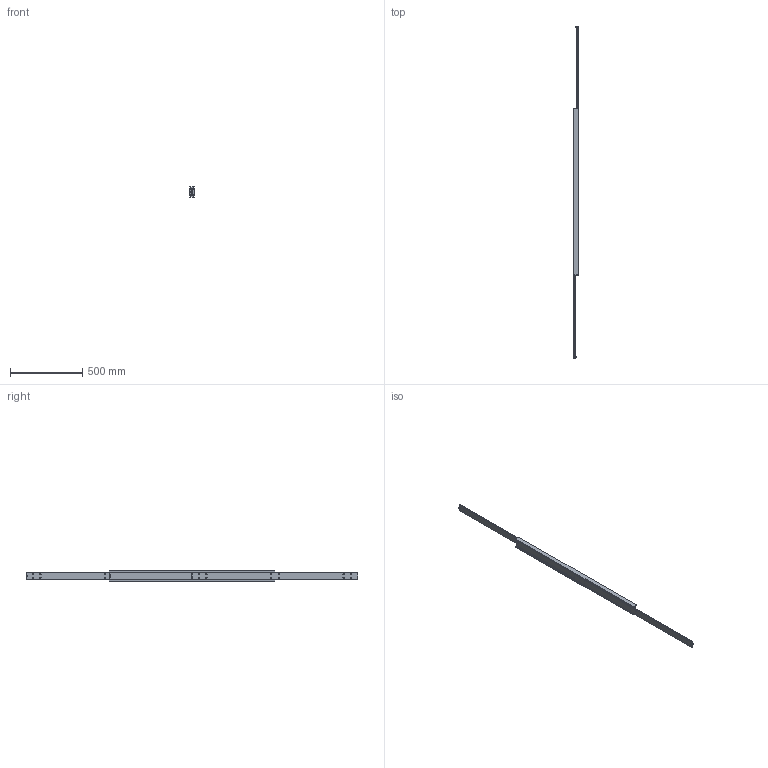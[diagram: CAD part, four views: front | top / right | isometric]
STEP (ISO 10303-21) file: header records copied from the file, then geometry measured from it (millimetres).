
FILE_DESCRIPTION(/* description */ (''),/* implementation_level */ '2;1');
FILE_NAME(/* name */ 'F:\MX-DTP70.115\MX-DTP70.115_ausgefahren.stp',/* time_stamp */ '2020-12-29T11:19:00+01:00',/* author */ ('Miluxor'),/* organization */ (''),/* preprocessor_version */ 'ST-DEVELOPER v16.13',/* originating_system */ 'AutoCAD Mechanical',/* authorisation */ '');
FILE_SCHEMA (('AUTOMOTIVE_DESIGN { 1 0 10303 214 3 1 1 }'));
Length unit declared in the file: millimetre
Products named in the file (1): Product
Bounding box: 32 x 2300 x 70 mm (x, y, z)
Volume: 1965806.4 mm3; surface area: 728899.6 mm2
Topology: 81 solids, 83 shells, 210 faces, 732 edges, 536 vertices
Faces by surface type: plane 82, sphere 76, cylinder 38, bspline 8, torus 6
Full cylindrical faces by diameter (mm): 8 x24, 13 x2
Entity records: 14869 total; most frequent: CARTESIAN_POINT 8761, DIRECTION 1250, ORIENTED_EDGE 908, EDGE_CURVE 546, VERTEX_POINT 534, AXIS2_PLACEMENT_3D 519, EDGE_LOOP 446, CIRCLE 312
